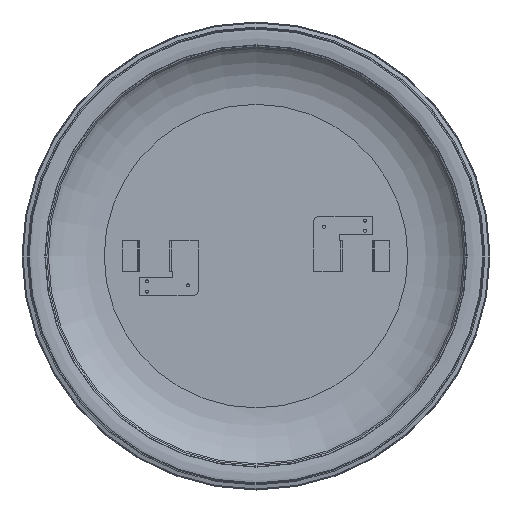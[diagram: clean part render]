
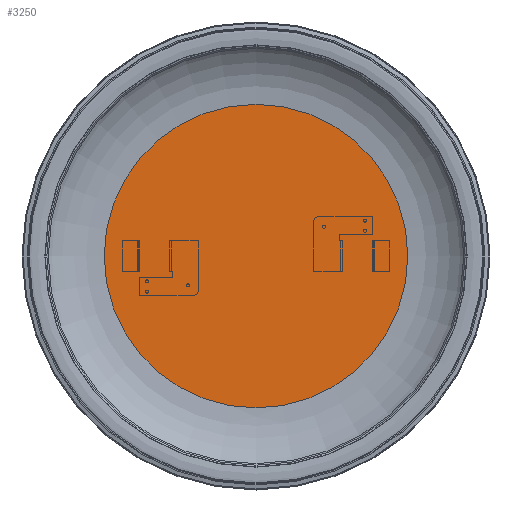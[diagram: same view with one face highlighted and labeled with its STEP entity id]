
A CAD part, top view. The second image highlights one B-rep face of the part: STEP entity #3250.
In plain terms, the highlighted planar face has unit normal (0, 0, 1).
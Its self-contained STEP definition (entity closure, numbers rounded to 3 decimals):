
#455=PLANE('',#4636);
#848=ORIENTED_EDGE('',*,*,#1516,.F.);
#1516=EDGE_CURVE('',#1875,#1875,#2149,.T.);
#1875=VERTEX_POINT('',#6282);
#2149=CIRCLE('',#4637,149.838);
#2397=EDGE_LOOP('',(#848));
#2821=FACE_BOUND('',#2397,.T.);
#3250=ADVANCED_FACE('',(#2821),#455,.F.);
#4636=AXIS2_PLACEMENT_3D('',#6280,#5259,#5260);
#4637=AXIS2_PLACEMENT_3D('',#6281,#5261,#5262);
#5259=DIRECTION('',(0.,0.,-1.));
#5260=DIRECTION('',(-1.,0.,0.));
#5261=DIRECTION('',(0.,0.,-1.));
#5262=DIRECTION('',(-1.,0.,0.));
#6280=CARTESIAN_POINT('',(-149.838,0.,-50.));
#6281=CARTESIAN_POINT('',(0.,0.,-50.));
#6282=CARTESIAN_POINT('',(-149.838,0.,-50.));
